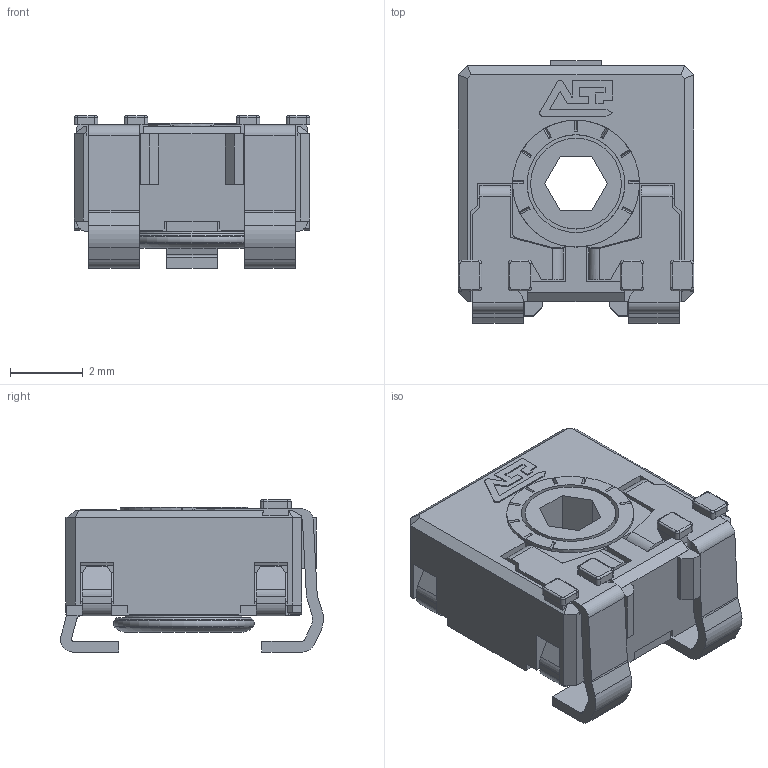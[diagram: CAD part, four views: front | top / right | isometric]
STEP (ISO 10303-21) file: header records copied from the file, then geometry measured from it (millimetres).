
FILE_DESCRIPTION(/* description */ (''),/* implementation_level */ '2;1');
FILE_NAME(/* name */ '\\SERVERACP\intercambio\Ignacio Santa Cecilia\Nueva WEB 2025\CA6\CA6MVESMD.stp',/* time_stamp */ '2025-06-05T12:29:53+02:00',/* author */ ('CEM'),/* organization */ (''),/* preprocessor_version */ 'ST-DEVELOPER v17',/* originating_system */ 'Autodesk Inventor 2018',/* authorisation */ '');
FILE_SCHEMA (('AUTOMOTIVE_DESIGN { 1 0 10303 214 3 1 1 }'));
Length unit declared in the file: millimetre
Products named in the file (1): CARCASA CA6
Bounding box: 6.5 x 7.25 x 4.2 mm (x, y, z)
Volume: 90.8 mm3; surface area: 385 mm2
Topology: 1 solids, 1 shells, 528 faces, 1485 edges, 955 vertices
Faces by surface type: plane 397, cylinder 92, cone 17, bspline 16, torus 6
Full cylindrical faces by diameter (mm): 2.5 x1, 2.7 x1, 2.9 x1, 3.1 x1, 3.5 x1
Entity records: 17120 total; most frequent: CARTESIAN_POINT 3153, ORIENTED_EDGE 2970, DIRECTION 2777, EDGE_CURVE 1485, LINE 1163, VECTOR 1163, VERTEX_POINT 955, AXIS2_PLACEMENT_3D 807
